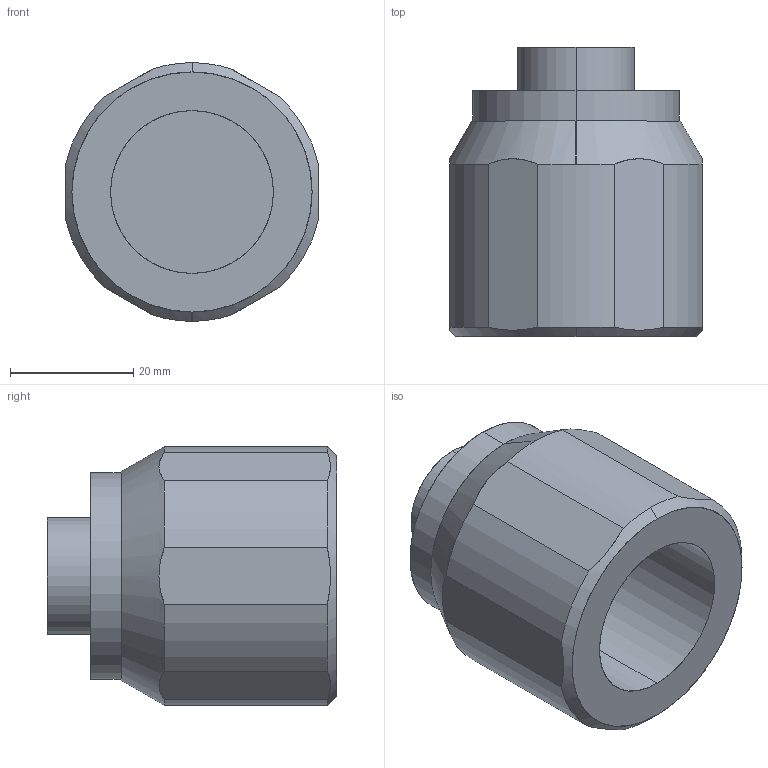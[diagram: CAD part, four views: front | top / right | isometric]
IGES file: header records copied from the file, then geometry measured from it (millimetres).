
Start section: SolidWorks IGES file using analytic representation for surfaces
Global section: file name: G:\Silvent\Ritningar\Övrigt\IGES\Silvent 715+C.IGS; native system: SolidWorks 2011; preprocessor: SolidWorks 2011; author: silvrati; date: 111208.160810; units: millimetre
Bounding box: 41 x 47 x 42 mm (x, y, z)
Surface area: 10258.9 mm2 (no closed solid volume)
Topology: 0 solids, 0 shells, 34 faces, 454 edges, 454 vertices
Faces by surface type: revolution 21, bspline 13
